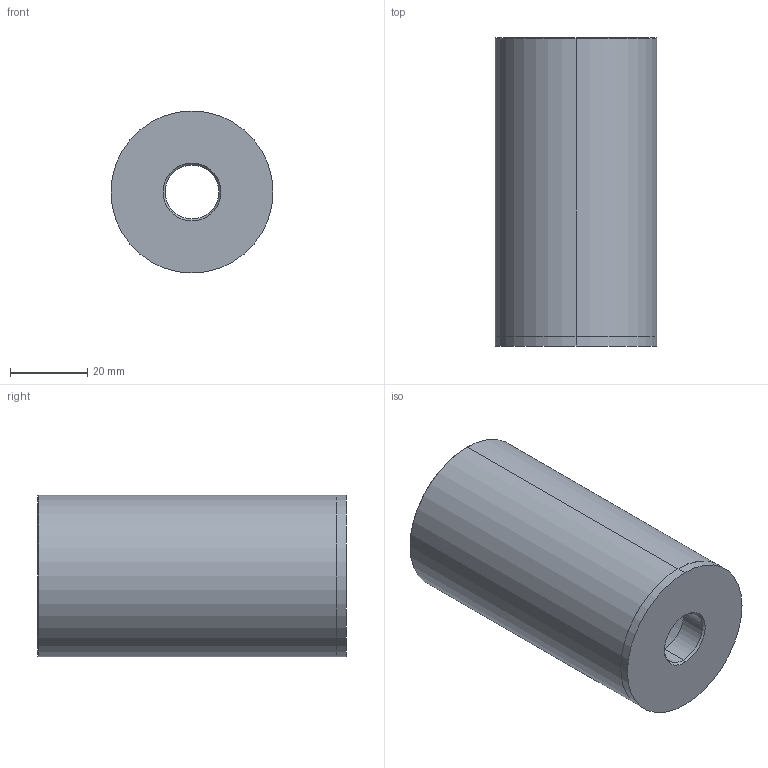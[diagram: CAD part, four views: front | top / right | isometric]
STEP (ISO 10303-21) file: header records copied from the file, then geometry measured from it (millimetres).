
FILE_DESCRIPTION (( 'STEP AP214' ), '1' );
FILE_NAME ('R05_42x080.STEP', '2020-03-20T00:02:29', ( '' ), ( '' ), 'SwSTEP 2.0', 'SolidWorks 2014', '' );
FILE_SCHEMA (( 'AUTOMOTIVE_DESIGN' ));
Length unit declared in the file: millimetre
Products named in the file (1): R05_42x080
Bounding box: 42.02 x 80 x 42.02 mm (x, y, z)
Volume: 49857.9 mm3; surface area: 20366.5 mm2
Topology: 1 solids, 1 shells, 19 faces, 38 edges, 22 vertices
Faces by surface type: cone 8, cylinder 8, plane 3
Entity records: 554 total; most frequent: DIRECTION 100, CARTESIAN_POINT 80, ORIENTED_EDGE 76, AXIS2_PLACEMENT_3D 42, EDGE_CURVE 38, EDGE_LOOP 22, CIRCLE 22, VERTEX_POINT 22
